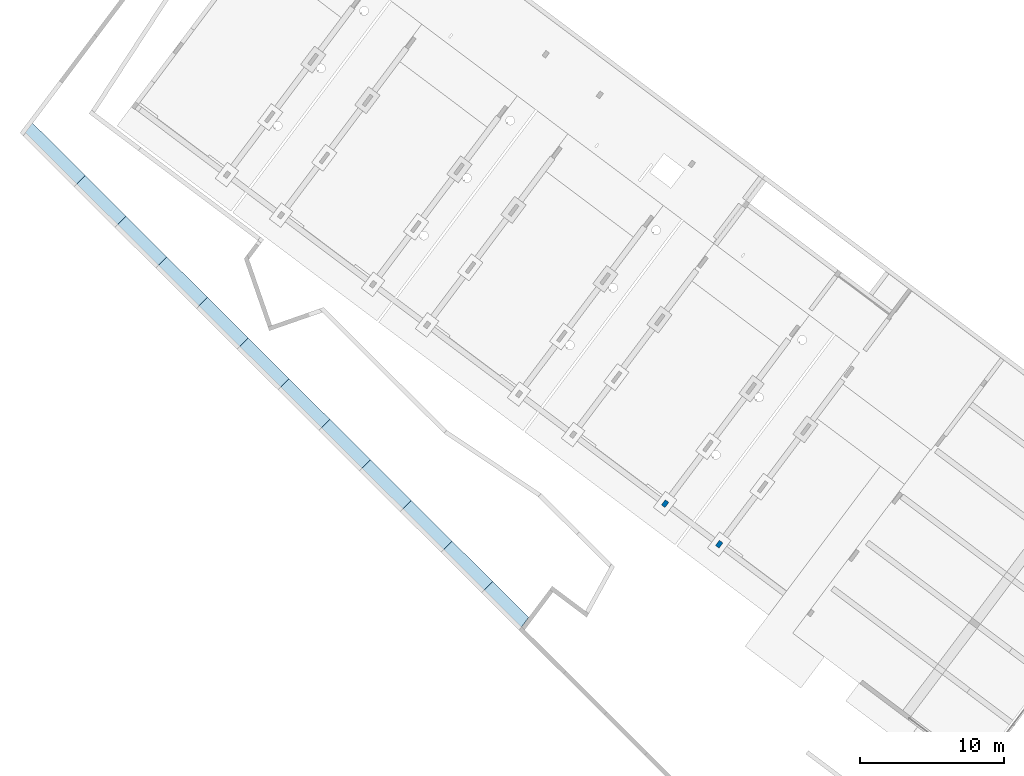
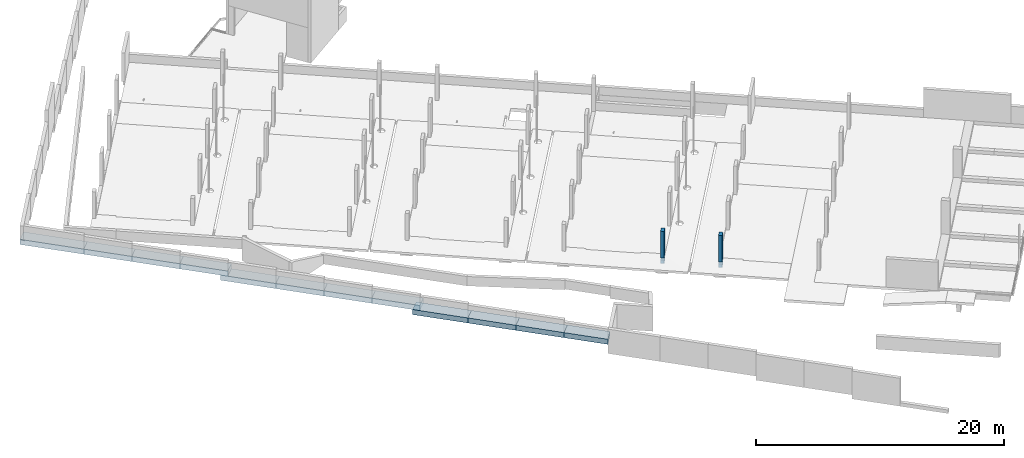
# One storey, part 1 of 24: 12 footings, 2 columns.
"""IFC2X3 building model written with IfcOpenShell, lengths in metres."""

from ifc_helpers import new_model, entity, si_unit, converted_unit, derived_unit, direction, frame, frame_2d, origin, origin_2d_with_axis, place, context, subcontext, project, spatial, polyline, rectangle, outline, extrude, clip, halfspace, source, transform, mapped, material, type_object, type_shapes, element, save


model = new_model("IFC2X3")

# Units and contexts
model_context = context("Model", 3, precision=1e-05, world=origin(), true_north=direction((6.123031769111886e-17, 1.0)))
body_context = subcontext(model_context, "Body", "Model", "MODEL_VIEW")
ifc_project = project(units=[si_unit("LENGTHUNIT", "METRE"), si_unit("AREAUNIT", "SQUARE_METRE"), si_unit("VOLUMEUNIT", "CUBIC_METRE"), converted_unit("PLANEANGLEUNIT", "DEGREE", entity("IfcRatioMeasure", 0.017453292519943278), si_unit("PLANEANGLEUNIT", "RADIAN"), dimensions=[0, 0, 0, 0, 0, 0, 0]), si_unit("MASSUNIT", "GRAM", prefix="KILO"), derived_unit("MASSDENSITYUNIT", [(si_unit("MASSUNIT", "GRAM", prefix="KILO"), 1), (si_unit("LENGTHUNIT", "METRE"), -3)]), derived_unit("IONCONCENTRATIONUNIT", [(si_unit("MASSUNIT", "GRAM", prefix="KILO"), 1), (si_unit("LENGTHUNIT", "METRE"), -3)]), derived_unit("MOMENTOFINERTIAUNIT", [(si_unit("LENGTHUNIT", "METRE"), 4)]), si_unit("TIMEUNIT", "SECOND"), si_unit("FREQUENCYUNIT", "HERTZ"), si_unit("THERMODYNAMICTEMPERATUREUNIT", "DEGREE_CELSIUS"), derived_unit("THERMALTRANSMITTANCEUNIT", [(si_unit("MASSUNIT", "GRAM", prefix="KILO"), 1), (si_unit("THERMODYNAMICTEMPERATUREUNIT", "KELVIN"), -1), (si_unit("TIMEUNIT", "SECOND"), -3)]), derived_unit("THERMALCONDUCTANCEUNIT", [(si_unit("MASSUNIT", "GRAM", prefix="KILO"), 1), (si_unit("THERMODYNAMICTEMPERATUREUNIT", "KELVIN"), -1), (si_unit("TIMEUNIT", "SECOND"), -3), (si_unit("LENGTHUNIT", "METRE"), 1)]), derived_unit("VOLUMETRICFLOWRATEUNIT", [(si_unit("LENGTHUNIT", "METRE"), 3), (si_unit("TIMEUNIT", "SECOND"), -1)]), derived_unit("MASSFLOWRATEUNIT", [(si_unit("MASSUNIT", "GRAM", prefix="KILO"), 1), (si_unit("TIMEUNIT", "SECOND"), -1)]), derived_unit("ROTATIONALFREQUENCYUNIT", [(si_unit("TIMEUNIT", "SECOND"), -1)]), si_unit("ELECTRICCURRENTUNIT", "AMPERE"), si_unit("ELECTRICVOLTAGEUNIT", "VOLT"), si_unit("POWERUNIT", "WATT"), si_unit("FORCEUNIT", "NEWTON", prefix="KILO"), si_unit("ILLUMINANCEUNIT", "LUX"), si_unit("LUMINOUSFLUXUNIT", "LUMEN"), si_unit("LUMINOUSINTENSITYUNIT", "CANDELA"), derived_unit("USERDEFINED", [(si_unit("MASSUNIT", "GRAM", prefix="KILO"), -1), (si_unit("LENGTHUNIT", "METRE"), -2), (si_unit("TIMEUNIT", "SECOND"), 3), (si_unit("LUMINOUSFLUXUNIT", "LUMEN"), 1)]), derived_unit("USERDEFINED", [(si_unit("MASSUNIT", "GRAM", prefix="KILO"), 1), (si_unit("TIMEUNIT", "SECOND"), -3), (si_unit("LENGTHUNIT", "METRE"), 3), (si_unit("ELECTRICCURRENTUNIT", "AMPERE"), -2)]), derived_unit("SOUNDPOWERUNIT", [(si_unit("MASSUNIT", "GRAM", prefix="KILO"), 1), (si_unit("TIMEUNIT", "SECOND"), -3), (si_unit("LENGTHUNIT", "METRE"), 2)]), derived_unit("SOUNDPRESSUREUNIT", [(si_unit("MASSUNIT", "GRAM", prefix="KILO"), 1), (si_unit("LENGTHUNIT", "METRE"), -1), (si_unit("TIMEUNIT", "SECOND"), -2)]), derived_unit("LINEARVELOCITYUNIT", [(si_unit("LENGTHUNIT", "METRE"), 1), (si_unit("TIMEUNIT", "SECOND"), -1)]), si_unit("PRESSUREUNIT", "PASCAL"), derived_unit("USERDEFINED", [(si_unit("MASSUNIT", "GRAM", prefix="KILO"), 1), (si_unit("LENGTHUNIT", "METRE"), -2), (si_unit("TIMEUNIT", "SECOND"), -2)]), derived_unit("LINEARFORCEUNIT", [(si_unit("MASSUNIT", "GRAM", prefix="KILO"), 1), (si_unit("TIMEUNIT", "SECOND"), -2)]), derived_unit("PLANARFORCEUNIT", [(si_unit("MASSUNIT", "GRAM", prefix="KILO"), 1), (si_unit("LENGTHUNIT", "METRE"), -1), (si_unit("TIMEUNIT", "SECOND"), -2)]), derived_unit("SPECIFICHEATCAPACITYUNIT", [(si_unit("THERMODYNAMICTEMPERATUREUNIT", "KELVIN"), -1), (si_unit("LENGTHUNIT", "METRE"), 2), (si_unit("TIMEUNIT", "SECOND"), -2)]), derived_unit("HEATINGVALUEUNIT", [(si_unit("LENGTHUNIT", "METRE"), 2), (si_unit("TIMEUNIT", "SECOND"), -2)]), derived_unit("VAPORPERMEABILITYUNIT", [(si_unit("LENGTHUNIT", "METRE"), -1), (si_unit("TIMEUNIT", "SECOND"), 1)]), derived_unit("DYNAMICVISCOSITYUNIT", [(si_unit("MASSUNIT", "GRAM", prefix="KILO"), 1), (si_unit("TIMEUNIT", "SECOND"), -1), (si_unit("LENGTHUNIT", "METRE"), -1)]), derived_unit("THERMALEXPANSIONCOEFFICIENTUNIT", [(si_unit("THERMODYNAMICTEMPERATUREUNIT", "KELVIN"), -1)]), derived_unit("MODULUSOFELASTICITYUNIT", [(si_unit("MASSUNIT", "GRAM", prefix="KILO"), 1), (si_unit("LENGTHUNIT", "METRE"), -1), (si_unit("TIMEUNIT", "SECOND"), -2)]), derived_unit("ISOTHERMALMOISTURECAPACITYUNIT", [(si_unit("LENGTHUNIT", "METRE"), 3), (si_unit("MASSUNIT", "GRAM", prefix="KILO"), -1)]), derived_unit("MOISTUREDIFFUSIVITYUNIT", [(si_unit("TIMEUNIT", "SECOND"), -1), (si_unit("LENGTHUNIT", "METRE"), 2)])], contexts=[model_context])

# Site, building, storey
site_placement = place(None, origin())
site = spatial("IfcSite", under=ifc_project, at=site_placement, Name="Default", CompositionType="ELEMENT")
building_placement = place(site_placement, frame((0.0, 0.0, 235.0), z_axis=(0.0, 0.0, 1.0), x_axis=(-0.7996477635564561, 0.6004693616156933, 0.0)))
building = spatial("IfcBuilding", under=site, at=building_placement, CompositionType="ELEMENT")
storey_placement = place(building_placement, origin())
storey = spatial("IfcBuildingStorey", under=building, at=storey_placement, Name="P0- Escola", CompositionType="ELEMENT", Elevation=0.0)

# Footings
ifc_material = material(Name="_Formigó- T1- STR")
footing_1_placement = place(storey_placement, frame((34.820660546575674, -8.936850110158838, 0.21999999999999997)))
element("IfcFooting", 1, at=footing_1_placement, inside=storey, material=ifc_material, Name="Cimentación de muro:STR- S- Formigó- Sabata MP -1 i 2 m", ObjectType="Cimentación de muro:STR- S- Formigó- Sabata MP -1 i 2 m", PredefinedType="STRIP_FOOTING", context=body_context, shape_type="SweptSolid", body=[
    extrude(rectangle(XDim=3.9999999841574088, YDim=1.0999999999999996, at=frame_2d((2.220446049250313e-15, -2.220446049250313e-16), x_axis=(1.0, 0.0))), frame((2.0570576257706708, 0.8228241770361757, 0.0), z_axis=(0.0, 0.0, 1.0), x_axis=(0.9902804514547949, -0.13908496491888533, 0.0)), (0.0, 0.0, 1.0), 0.49999999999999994),
])
footing_2_placement = place(storey_placement, frame((42.74290412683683, -10.132980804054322, 0.21999999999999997)))
element("IfcFooting", 2, at=footing_2_placement, inside=storey, material=ifc_material, Name="Cimentación de muro:STR- S- Formigó- Sabata MP -1 i 2 m", ObjectType="Cimentación de muro:STR- S- Formigó- Sabata MP -1 i 2 m", PredefinedType="STRIP_FOOTING", context=body_context, shape_type="SweptSolid", body=[
    extrude(rectangle(XDim=4.599999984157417, YDim=1.0999999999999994, at=frame_2d((4.440892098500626e-15, 6.106226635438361e-16), x_axis=(1.0, 0.0))), frame((2.3541417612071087, 0.8645496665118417, 0.0), z_axis=(0.0, 0.0, 1.0), x_axis=(0.9902804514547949, -0.1390849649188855, 0.0)), (0.0, 0.0, 1.0), 0.49999999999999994),
])
footing_3_placement = place(storey_placement, frame((50.66514770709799, -11.162209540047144, 0.7199999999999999)))
element("IfcFooting", 3, at=footing_3_placement, inside=storey, material=ifc_material, Name="Cimentación de muro:STR- S- Formigó- Sabata MP -1 i 2 m", ObjectType="Cimentación de muro:STR- S- Formigó- Sabata MP -1 i 2 m", PredefinedType="STRIP_FOOTING", context=body_context, shape_type="SweptSolid", body=[
    extrude(rectangle(XDim=3.9999999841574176, YDim=1.1000000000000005, at=frame_2d((-4.218847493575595e-15, -1.6653345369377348e-15), x_axis=(1.0, 0.0))), frame((2.0570576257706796, 0.8228241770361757, 0.0), z_axis=(0.0, 0.0, 1.0), x_axis=(0.990280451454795, -0.13908496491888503, 0.0)), (0.0, 0.0, 1.0), 0.4999999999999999),
])
footing_4_placement = place(storey_placement, frame((58.58739128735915, -12.358340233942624, 0.7199999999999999)))
element("IfcFooting", 4, at=footing_4_placement, inside=storey, material=ifc_material, Name="Cimentación de muro:STR- S- Formigó- Sabata MP -1 i 2 m", ObjectType="Cimentación de muro:STR- S- Formigó- Sabata MP -1 i 2 m", PredefinedType="STRIP_FOOTING", context=body_context, shape_type="SweptSolid", body=[
    extrude(rectangle(XDim=4.599999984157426, YDim=1.1000000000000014, at=origin_2d_with_axis()), frame((2.3541417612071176, 0.8645496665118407, 0.0), z_axis=(0.0, 0.0, 1.0), x_axis=(0.990280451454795, -0.13908496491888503, 0.0)), (0.0, 0.0, 1.0), 0.4999999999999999),
])
footing_5_placement = place(storey_placement, frame((66.5096348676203, -13.387568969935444, 1.22)))
element("IfcFooting", 5, at=footing_5_placement, inside=storey, material=ifc_material, Name="Cimentación de muro:STR- S- Formigó- Sabata MP -1 i 2 m", ObjectType="Cimentación de muro:STR- S- Formigó- Sabata MP -1 i 2 m", PredefinedType="STRIP_FOOTING", context=body_context, shape_type="SweptSolid", body=[
    extrude(rectangle(XDim=3.9999999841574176, YDim=1.1000000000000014, at=frame_2d((-4.218847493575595e-15, -1.6653345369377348e-15), x_axis=(1.0, 0.0))), frame((2.0570576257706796, 0.8228241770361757, 0.0), z_axis=(0.0, 0.0, 1.0), x_axis=(0.990280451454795, -0.13908496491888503, 0.0)), (0.0, 0.0, 1.0), 0.4999999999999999),
])
footing_6_placement = place(storey_placement, frame((74.43187844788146, -14.682683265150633, 1.22)))
element("IfcFooting", 6, at=footing_6_placement, inside=storey, material=ifc_material, Name="Cimentación de muro:STR- S- Formigó- Sabata MP -1 i 2 m", ObjectType="Cimentación de muro:STR- S- Formigó- Sabata MP -1 i 2 m", PredefinedType="STRIP_FOOTING", context=body_context, shape_type="SweptSolid", body=[
    extrude(rectangle(XDim=5.31167720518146, YDim=1.1000000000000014, at=origin_2d_with_axis()), frame((2.706521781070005, 0.9140414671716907, 0.0), z_axis=(0.0, 0.0, 1.0), x_axis=(0.990280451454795, -0.1390849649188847, 0.0)), (0.0, 0.0, 1.0), 0.4999999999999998),
])
footing_7_placement = place(storey_placement, frame((31.333360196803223, -8.380510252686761, 0.21999999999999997)))
element("IfcFooting", 7, at=footing_7_placement, inside=storey, material=ifc_material, Name="Cimentación de muro:STR- S- Formigó- Sabata MP -1 i 2 m", ObjectType="Cimentación de muro:STR- S- Formigó- Sabata MP -1 i 2 m", PredefinedType="STRIP_FOOTING", context=body_context, shape_type="SweptSolid", body=[
    extrude(outline(polyline([(-1.7993877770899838, -0.5499999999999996), (1.876635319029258, -0.5499999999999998), (1.722140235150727, 0.5499999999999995), (-1.799387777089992, 0.55), (-1.7993877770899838, -0.5499999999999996)])), frame((1.7818985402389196, 0.7949220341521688, 0.0), z_axis=(0.0, 0.0, 1.0), x_axis=(-0.9902804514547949, 0.13908496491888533, 0.0)), (0.0, 0.0, 1.0), 0.49999999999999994),
])
footing_8_placement = place(storey_placement, frame((38.78178233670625, -9.493189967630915, 0.21999999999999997)))
element("IfcFooting", 8, at=footing_8_placement, inside=storey, material=ifc_material, Name="Cimentación de muro:STR- S- Formigó- Sabata MP -1 i 2 m", ObjectType="Cimentación de muro:STR- S- Formigó- Sabata MP -1 i 2 m", PredefinedType="STRIP_FOOTING", context=body_context, shape_type="SweptSolid", body=[
    extrude(rectangle(XDim=3.999999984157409, YDim=1.0999999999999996, at=frame_2d((0.0, 5.551115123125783e-16), x_axis=(1.0, 0.0))), frame((2.0570576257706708, 0.8228241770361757, 0.0), z_axis=(0.0, 0.0, 1.0), x_axis=(0.9902804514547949, -0.13908496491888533, 0.0)), (0.0, 0.0, 1.0), 0.49999999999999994),
])
footing_9_placement = place(storey_placement, frame((46.704025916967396, -10.605869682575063, 0.7199999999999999)))
element("IfcFooting", 9, at=footing_9_placement, inside=storey, material=ifc_material, Name="Cimentación de muro:STR- S- Formigó- Sabata MP -1 i 2 m", ObjectType="Cimentación de muro:STR- S- Formigó- Sabata MP -1 i 2 m", PredefinedType="STRIP_FOOTING", context=body_context, shape_type="SweptSolid", body=[
    extrude(rectangle(XDim=3.9999999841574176, YDim=1.0999999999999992, at=frame_2d((-0.6857142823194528, 0.03571428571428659), x_axis=(1.0, 0.0))), frame((1.38297549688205, 0.9535638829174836, 0.0), z_axis=(0.0, 0.0, 1.0), x_axis=(-0.9902804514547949, 0.1390849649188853, 0.0)), (0.0, 0.0, 1.0), 0.5),
])
footing_10_placement = place(storey_placement, frame((54.626269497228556, -11.718549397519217, 0.7199999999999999)))
element("IfcFooting", 10, at=footing_10_placement, inside=storey, material=ifc_material, Name="Cimentación de muro:STR- S- Formigó- Sabata MP -1 i 2 m", ObjectType="Cimentación de muro:STR- S- Formigó- Sabata MP -1 i 2 m", PredefinedType="STRIP_FOOTING", context=body_context, shape_type="SweptSolid", body=[
    extrude(rectangle(XDim=3.9999999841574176, YDim=1.1000000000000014, at=frame_2d((-4.218847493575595e-15, -1.6653345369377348e-15), x_axis=(1.0, 0.0))), frame((2.057057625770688, 0.8228241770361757, 0.0), z_axis=(0.0, 0.0, 1.0), x_axis=(0.990280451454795, -0.13908496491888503, 0.0)), (0.0, 0.0, 1.0), 0.4999999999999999),
])
footing_11_placement = place(storey_placement, frame((62.548513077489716, -12.831229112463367, 1.22)))
element("IfcFooting", 11, at=footing_11_placement, inside=storey, material=ifc_material, Name="Cimentación de muro:STR- S- Formigó- Sabata MP -1 i 2 m", ObjectType="Cimentación de muro:STR- S- Formigó- Sabata MP -1 i 2 m", PredefinedType="STRIP_FOOTING", context=body_context, shape_type="SweptSolid", body=[
    extrude(rectangle(XDim=3.9999999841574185, YDim=1.0999999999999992, at=frame_2d((-0.6857142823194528, 0.0357142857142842), x_axis=(1.0, 0.0))), frame((1.38297549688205, 0.9535638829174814, 0.0), z_axis=(0.0, 0.0, 1.0), x_axis=(-0.9902804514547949, 0.13908496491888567, 0.0)), (0.0, 0.0, 1.0), 0.5),
])
footing_12_placement = place(storey_placement, frame((70.47075665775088, -13.943908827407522, 1.22)))
element("IfcFooting", 12, at=footing_12_placement, inside=storey, material=ifc_material, Name="Cimentación de muro:STR- S- Formigó- Sabata MP -1 i 2 m", ObjectType="Cimentación de muro:STR- S- Formigó- Sabata MP -1 i 2 m", PredefinedType="STRIP_FOOTING", context=body_context, shape_type="SweptSolid", body=[
    extrude(rectangle(XDim=3.9999999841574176, YDim=1.1000000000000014, at=frame_2d((-4.440892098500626e-15, 4.440892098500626e-16), x_axis=(1.0, 0.0))), frame((2.057057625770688, 0.8228241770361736, 0.0), z_axis=(0.0, 0.0, 1.0), x_axis=(0.990280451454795, -0.13908496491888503, 0.0)), (0.0, 0.0, 1.0), 0.4999999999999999),
])

# Columns
column_type_1 = type_object("IfcColumnType", Name="STR- P- Formigó- Rectangular- T1:30x45cm", PredefinedType="COLUMN", material=ifc_material)
shared_shape_1 = source(origin(), body_context, "Body", "SweptSolid", [
    clip(extrude(rectangle(XDim=0.450000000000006, YDim=0.3000000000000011, at=origin_2d_with_axis()), frame((23.795147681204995, -19.915191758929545, -0.57), z_axis=(0.0, 0.0, 1.0), x_axis=(0.0, -1.0, 0.0)), (0.0, 0.0, 1.0), 0.3500000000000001), halfspace(frame((21.55139768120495, -19.090191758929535, -0.245), z_axis=(0.0, 0.02380277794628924, 0.9997166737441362), x_axis=(-1.0, 0.0, 0.0)), False)),
    clip(extrude(rectangle(XDim=0.450000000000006, YDim=0.3000000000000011, at=origin_2d_with_axis()), frame((23.795147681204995, -19.915191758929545, -0.03071428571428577), z_axis=(0.0, 0.0, 1.0), x_axis=(0.0, -1.0, 0.0)), (0.0, 0.0, 1.0), 2.6307142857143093), halfspace(frame((21.55139768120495, -19.090191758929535, -0.045), z_axis=(0.0, -0.02380277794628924, -0.9997166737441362), x_axis=(-1.0, 0.0, 0.0)), False)),
])
type_shapes(column_type_1, [shared_shape_1])
column_1_placement = place(storey_placement, origin())
element("IfcColumn", 13, at=column_1_placement, inside=storey, type_object=column_type_1, material=ifc_material, Name="STR- P- Formigó- Rectangular- T1:30x45cm", ObjectType="STR- P- Formigó- Rectangular- T1:30x45cm", context=body_context, shape_type="MappedRepresentation", body=[
    mapped(shared_shape_1, transform((0.0, 0.0, 0.0), scale=1.0)),
])
column_type_2 = type_object("IfcColumnType", Name="STR- P- Formigó- Rectangular- T1:30x45cm", PredefinedType="COLUMN", material=ifc_material)
shared_shape_2 = source(origin(), body_context, "Body", "SweptSolid", [
    clip(extrude(rectangle(XDim=0.450000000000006, YDim=0.3000000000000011, at=origin_2d_with_axis()), frame((28.49514768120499, -19.915191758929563, -0.57), z_axis=(0.0, 0.0, 1.0), x_axis=(0.0, -1.0, 0.0)), (0.0, 0.0, 1.0), 0.35000000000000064), halfspace(frame((32.62639768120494, -19.090191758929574, -0.245), z_axis=(0.0, 0.023802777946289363, 0.9997166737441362), x_axis=(-1.0, 0.0, 0.0)), False)),
    clip(extrude(rectangle(XDim=0.450000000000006, YDim=0.3000000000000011, at=origin_2d_with_axis()), frame((28.49514768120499, -19.915191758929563, -0.03071428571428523), z_axis=(0.0, 0.0, 1.0), x_axis=(0.0, -1.0, 0.0)), (0.0, 0.0, 1.0), 2.630714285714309), halfspace(frame((32.62639768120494, -19.090191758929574, -0.045), z_axis=(0.0, -0.023802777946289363, -0.9997166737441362), x_axis=(-1.0, 0.0, 0.0)), False)),
])
type_shapes(column_type_2, [shared_shape_2])
column_2_placement = place(storey_placement, origin())
element("IfcColumn", 14, at=column_2_placement, inside=storey, type_object=column_type_2, material=ifc_material, Name="STR- P- Formigó- Rectangular- T1:30x45cm", ObjectType="STR- P- Formigó- Rectangular- T1:30x45cm", context=body_context, shape_type="MappedRepresentation", body=[
    mapped(shared_shape_2, transform((0.0, 0.0, 0.0), scale=1.0)),
])

save(model, "model.ifc")
